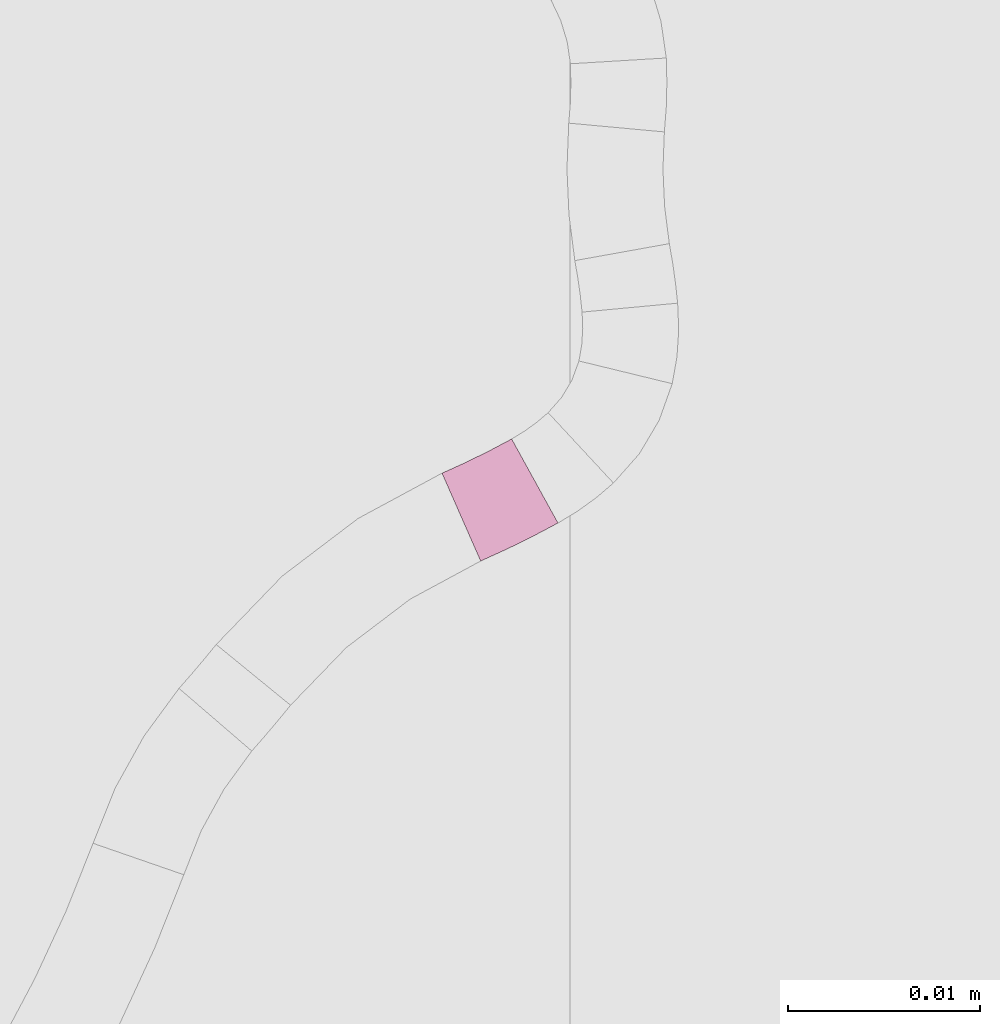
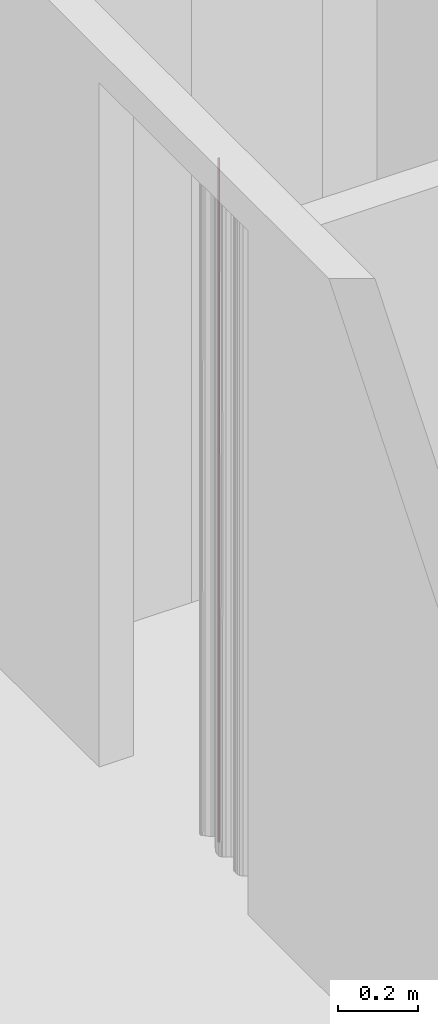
# One storey, part 210 of 418: 1 furnishing.
"""IFC2X3 building model written with IfcOpenShell, lengths in millimetres."""

from ifc_helpers import new_model, entity, si_unit, converted_unit, derived_unit, money_unit, point, direction, frame, frame_2d, origin_with_axes, place, context, subcontext, project, spatial, polyline, circle_curve, parameter, trimmed, segment, composite_curve, outline, extrude, material, type_object, element, save


model = new_model("IFC2X3")

# Units and contexts
model_context = context("Model", 3, precision=0.01, world=origin_with_axes(), true_north=direction((0.0, 1.0)))
body_context = subcontext(model_context, "Body", "Model", "MODEL_VIEW")
ifc_project = project(units=[si_unit("LENGTHUNIT", "METRE", prefix="MILLI"), si_unit("AREAUNIT", "SQUARE_METRE"), si_unit("VOLUMEUNIT", "CUBIC_METRE"), converted_unit("PLANEANGLEUNIT", "DEGREE", entity("IfcPlaneAngleMeasure", 0.0174532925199), si_unit("PLANEANGLEUNIT", "RADIAN"), dimensions=[0, 0, 0, 0, 0, 0, 0]), si_unit("SOLIDANGLEUNIT", "STERADIAN"), money_unit("EUR"), converted_unit("TIMEUNIT", "Year", entity("IfcTimeMeasure", 31556926.0), si_unit("TIMEUNIT", "SECOND"), dimensions=[0, 0, 1, 0, 0, 0, 0]), si_unit("MASSUNIT", "GRAM", prefix="KILO"), si_unit("THERMODYNAMICTEMPERATUREUNIT", "DEGREE_CELSIUS"), si_unit("LUMINOUSINTENSITYUNIT", "LUMEN"), si_unit("ENERGYUNIT", "JOULE", prefix="MEGA"), derived_unit("THERMALCONDUCTANCEUNIT", [(si_unit("POWERUNIT", "WATT"), 1), (si_unit("LENGTHUNIT", "METRE"), -1), (si_unit("THERMODYNAMICTEMPERATUREUNIT", "KELVIN"), -1)]), derived_unit("SPECIFICHEATCAPACITYUNIT", [(si_unit("ENERGYUNIT", "JOULE"), 1), (si_unit("MASSUNIT", "GRAM", prefix="KILO"), -1), (si_unit("THERMODYNAMICTEMPERATUREUNIT", "KELVIN"), -1)]), derived_unit("MASSDENSITYUNIT", [(si_unit("MASSUNIT", "GRAM", prefix="KILO"), 1), (si_unit("VOLUMEUNIT", "CUBIC_METRE"), -1)])], contexts=[model_context])

# Site, building, storey
site_placement = place(None, origin_with_axes())
site = spatial("IfcSite", under=ifc_project, at=site_placement, Name="Paldiski mnt 245/1, Tallinn, Harjumaa", CompositionType="COMPLEX")
building_placement = place(site_placement, origin_with_axes())
building = spatial("IfcBuilding", under=site, at=building_placement, Name="RKAS Hoone üldnimetus (kasutust iseloomustav) -> IFC Project Manager -> SOLIBRI", CompositionType="ELEMENT")
storey_placement = place(building_placement, origin_with_axes())
storey = spatial("IfcBuildingStorey", under=building, at=storey_placement, Name="Esimene korrus", CompositionType="ELEMENT", Elevation=0.0)

# Furnishing
ifc_material = material(Name="KON-00_GENEERILINE - KONSTRUKTSIOON")
furniture_type = type_object("IfcFurnitureType", Name="KON-00_GENEERILINE - KONSTRUKTSIOON 5", AssemblyPlace="NOTDEFINED")
furnishing_placement = place(storey_placement, frame((-45029.0736107, -1052.36268287, 0.0), z_axis=(0.0, 0.0, 1.0), x_axis=(0.916824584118, 0.399290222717, 0.0)))
element("IfcFurnishingElement", 1, at=furnishing_placement, inside=storey, type_object=furniture_type, material=ifc_material, Name="SS-82", context=body_context, shape_type="SweptSolid", body=[
    extrude(outline(composite_curve([segment(trimmed(circle_curve(frame_2d((0.0, 43.9561717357), x_axis=(0.000379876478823, -0.999999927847)), 48.9561717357), [point((0.0185972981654, -4.99999646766)), parameter(0.0)], [point((4.50236765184, -4.79252503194)), parameter(5.25503008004)], True, "CARTESIAN"), True, "CONTINUOUS"), segment(polyline([(4.50236765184, -4.79252503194), (4.03864452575, 0.185926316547)]), True, "CONTINUOUS"), segment(trimmed(circle_curve(frame_2d((0.0, 43.9561717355), x_axis=(0.0, -1.0)), 43.9561717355), [point((4.03864452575, 0.185926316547)), parameter(5.27170783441)], [point((0.0, 0.0)), parameter(0.0)], False, "CARTESIAN"), True, "CONTINUOUS"), segment(polyline([(0.0, 0.0), (0.0185972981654, -4.99999646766)]), True, "CONTINUOUS")], self_intersect=False)), origin_with_axes(), (0.0, 0.0, 1.0), 2100.0),
])

save(model, "model.ifc")
